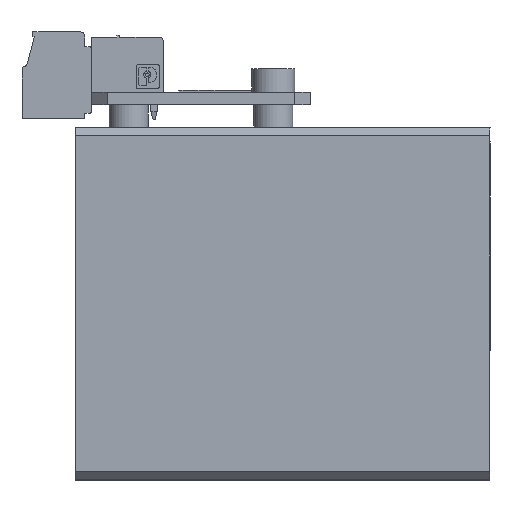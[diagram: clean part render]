
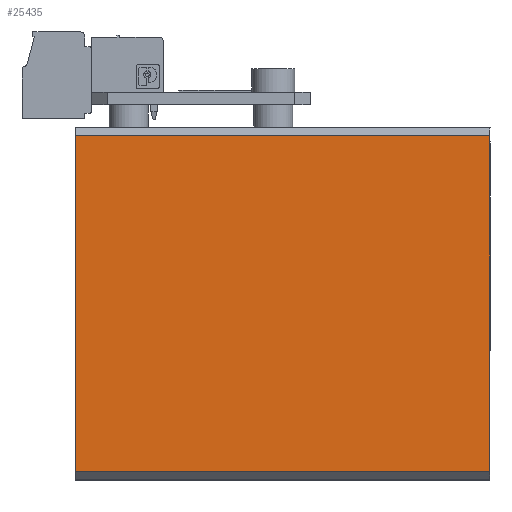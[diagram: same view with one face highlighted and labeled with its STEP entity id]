
A CAD part, top view. The second image highlights one B-rep face of the part: STEP entity #25435.
In plain terms, the highlighted planar face has unit normal (0, 0, 1).
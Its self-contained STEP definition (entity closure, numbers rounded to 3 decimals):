
#360 = CARTESIAN_POINT ( 'NONE',  ( 53., -21.5, 22.5 ) ) ;
#622 = ORIENTED_EDGE ( 'NONE', *, *, #23757, .T. ) ;
#895 = DIRECTION ( 'NONE',  ( 0., -1., 0. ) ) ;
#2874 = CARTESIAN_POINT ( 'NONE',  ( 53., -22.5, 22.5 ) ) ;
#3087 = PLANE ( 'NONE',  #25666 ) ;
#3712 = CARTESIAN_POINT ( 'NONE',  ( 0., -22.5, 22.5 ) ) ;
#3965 = DIRECTION ( 'NONE',  ( 0., -1., 0. ) ) ;
#4011 = CARTESIAN_POINT ( 'NONE',  ( 53., 21.5, 22.5 ) ) ;
#4494 = EDGE_LOOP ( 'NONE', ( #15770, #16059, #19115, #622 ) ) ;
#4816 = LINE ( 'NONE', #2874, #9492 ) ;
#5234 = EDGE_CURVE ( 'NONE', #20310, #5286, #19999, .T. ) ;
#5286 = VERTEX_POINT ( 'NONE', #12428 ) ;
#8843 = FACE_OUTER_BOUND ( 'NONE', #4494, .T. ) ;
#9492 = VECTOR ( 'NONE', #895, 1000. ) ;
#10097 = CARTESIAN_POINT ( 'NONE',  ( 0., 21.5, 22.5 ) ) ;
#10593 = VECTOR ( 'NONE', #3965, 1000. ) ;
#10679 = CARTESIAN_POINT ( 'NONE',  ( 53., 21.5, 22.5 ) ) ;
#11097 = CARTESIAN_POINT ( 'NONE',  ( 53., -22.5, 22.5 ) ) ;
#11223 = LINE ( 'NONE', #3712, #10593 ) ;
#12178 = EDGE_CURVE ( 'NONE', #20833, #5286, #4816, .T. ) ;
#12428 = CARTESIAN_POINT ( 'NONE',  ( 53., -21.5, 22.5 ) ) ;
#13102 = DIRECTION ( 'NONE',  ( -1., 0., 0. ) ) ;
#13343 = VERTEX_POINT ( 'NONE', #10097 ) ;
#14253 = DIRECTION ( 'NONE',  ( 1., 0., 0. ) ) ;
#15770 = ORIENTED_EDGE ( 'NONE', *, *, #24076, .T. ) ;
#16059 = ORIENTED_EDGE ( 'NONE', *, *, #5234, .T. ) ;
#19115 = ORIENTED_EDGE ( 'NONE', *, *, #12178, .F. ) ;
#19999 = LINE ( 'NONE', #360, #24665 ) ;
#20310 = VERTEX_POINT ( 'NONE', #20316 ) ;
#20316 = CARTESIAN_POINT ( 'NONE',  ( 0., -21.5, 22.5 ) ) ;
#20833 = VERTEX_POINT ( 'NONE', #4011 ) ;
#23054 = VECTOR ( 'NONE', #24606, 1000. ) ;
#23673 = LINE ( 'NONE', #10679, #23054 ) ;
#23757 = EDGE_CURVE ( 'NONE', #20833, #13343, #23673, .T. ) ;
#24076 = EDGE_CURVE ( 'NONE', #13343, #20310, #11223, .T. ) ;
#24606 = DIRECTION ( 'NONE',  ( -1., 0., 0. ) ) ;
#24665 = VECTOR ( 'NONE', #14253, 1000. ) ;
#25031 = DIRECTION ( 'NONE',  ( 0., 0., -1. ) ) ;
#25435 = ADVANCED_FACE ( 'NONE', ( #8843 ), #3087, .F. ) ;
#25666 = AXIS2_PLACEMENT_3D ( 'NONE', #11097, #25031, #13102 ) ;
